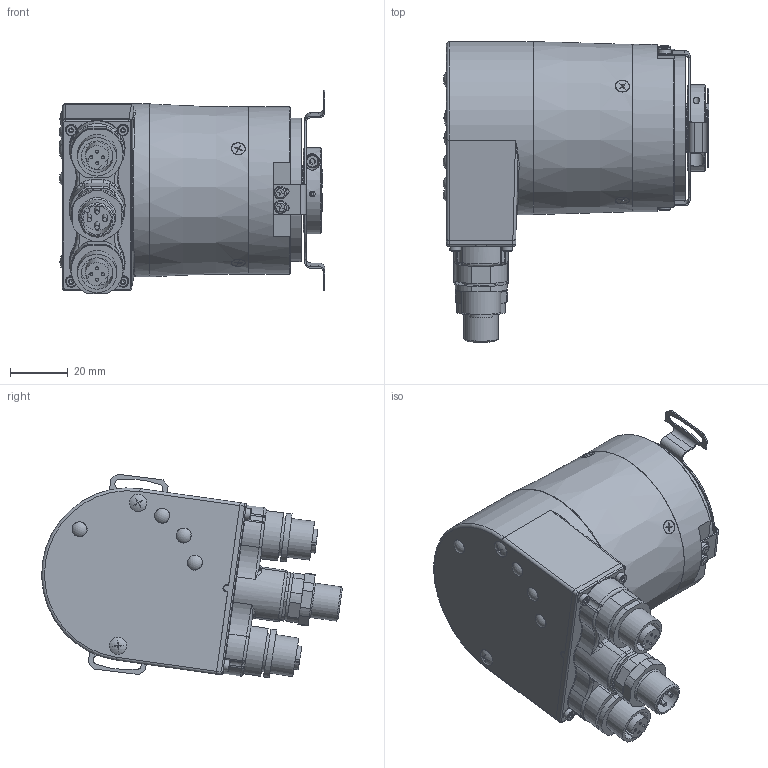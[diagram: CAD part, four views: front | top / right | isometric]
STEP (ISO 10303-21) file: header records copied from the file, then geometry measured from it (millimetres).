
FILE_DESCRIPTION (( 'STEP AP203' ), '1' );
FILE_NAME ('8.5888.64C2.C212.STEP', '2013-10-29T07:01:28', ( 'HeirlerN' ), ( 'Microsoft' ), 'SwSTEP 2.0', 'SolidWorks 2013', '' );
FILE_SCHEMA (( 'CONFIG_CONTROL_DESIGN' ));
Length unit declared in the file: millimetre
Products named in the file (1): 8.5888.64C2.C212
Bounding box: 92.17 x 104.23 x 70.55 mm (x, y, z)
Volume: 115922.4 mm3; surface area: 84142.8 mm2
Topology: 38 solids, 39 shells, 2369 faces, 6213 edges, 3999 vertices
Faces by surface type: plane 953, cylinder 900, cone 269, torus 126, bspline 107, sphere 14
Full cylindrical faces by diameter (mm): 1 x2, 1.05 x8, 1.5 x4, 1.6 x4, 2 x8, 2.05 x16, 2.2 x9, 2.5 x12, 2.6 x5, 2.7 x1, 3 x4, 3.3 x2, 3.8 x4, 4.5 x1, 4.7 x4, 5.1 x8, 5.2 x5, 6 x6, 6.8 x4, 8 x4, 8.1 x4, 11 x2, 11.5 x1, 12 x2, 13.2 x4, 13.5 x2, 14 x3, 14.5 x2, 15 x1, 16 x2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
Entity records: 77946 total; most frequent: CARTESIAN_POINT 21927, DIRECTION 11594, ORIENTED_EDGE 11554, EDGE_CURVE 5777, AXIS2_PLACEMENT_3D 4586, VERTEX_POINT 3900, EDGE_LOOP 2851, FACE_OUTER_BOUND 2571
